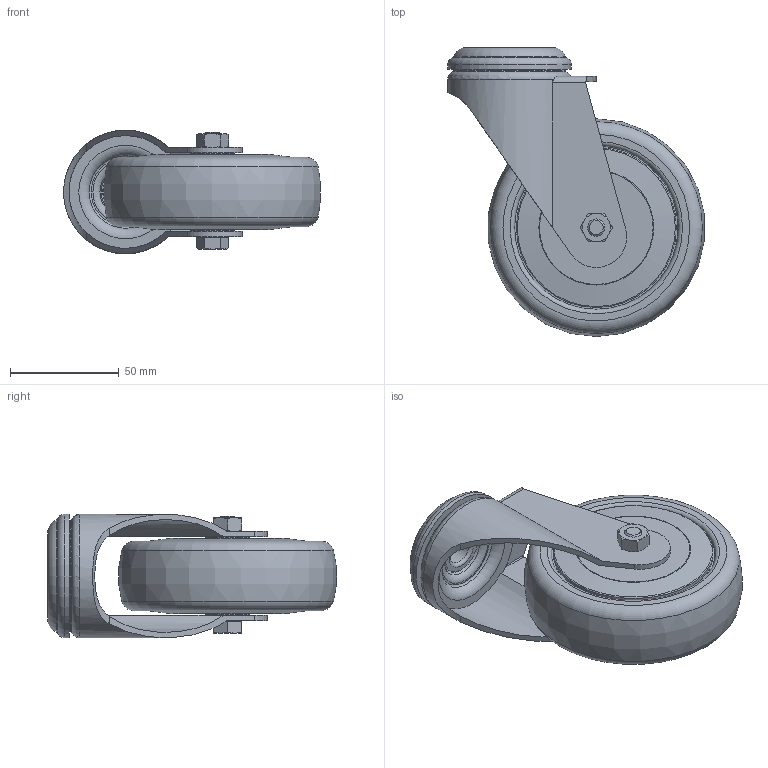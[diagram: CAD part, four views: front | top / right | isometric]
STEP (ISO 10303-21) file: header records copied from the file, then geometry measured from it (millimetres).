
FILE_DESCRIPTION(/* description */ ('STEP AP214'),/* implementation_level */ '2;1');
FILE_NAME(/* name */ '098S100TN',/* time_stamp */ '2025-03-17T13:44:41+01:00',/* author */ ('License CC BY-ND 4.0'),/* organization */ ('CADENAS'),/* preprocessor_version */ 'ST-DEVELOPER v19.3',/* originating_system */ 'PARTsolutions',/* authorisation */ ' ');
FILE_SCHEMA (('AUTOMOTIVE_DESIGN {1 0 10303 214 3 1 1}'));
Length unit declared in the file: millimetre
Products named in the file (5): 098S100TN; 098S100TN-body; 098S100TN-wheel; 098S100TN-nut; 098S100TN-screw
Assembly tree (4 placements, depth 2):
  098S100TN
    098S100TN-body
    098S100TN-wheel
    098S100TN-nut
    098S100TN-screw
Bounding box: 118.29 x 133.15 x 57 mm (x, y, z)
Volume: 303949.3 mm3; surface area: 54438 mm2
Topology: 4 solids, 4 shells, 150 faces, 339 edges, 210 vertices
Faces by surface type: plane 59, cone 38, torus 29, cylinder 24
Full cylindrical faces by diameter (mm): 8 x2, 8.5 x3, 13 x2, 20 x2, 20.45 x1, 57 x1, 73.64 x2
Entity records: 4155 total; most frequent: CARTESIAN_POINT 922, DIRECTION 648, ORIENTED_EDGE 578, EDGE_CURVE 289, AXIS2_PLACEMENT_3D 286, EDGE_LOOP 217, FACE_BOUND 217, VERTEX_POINT 204
